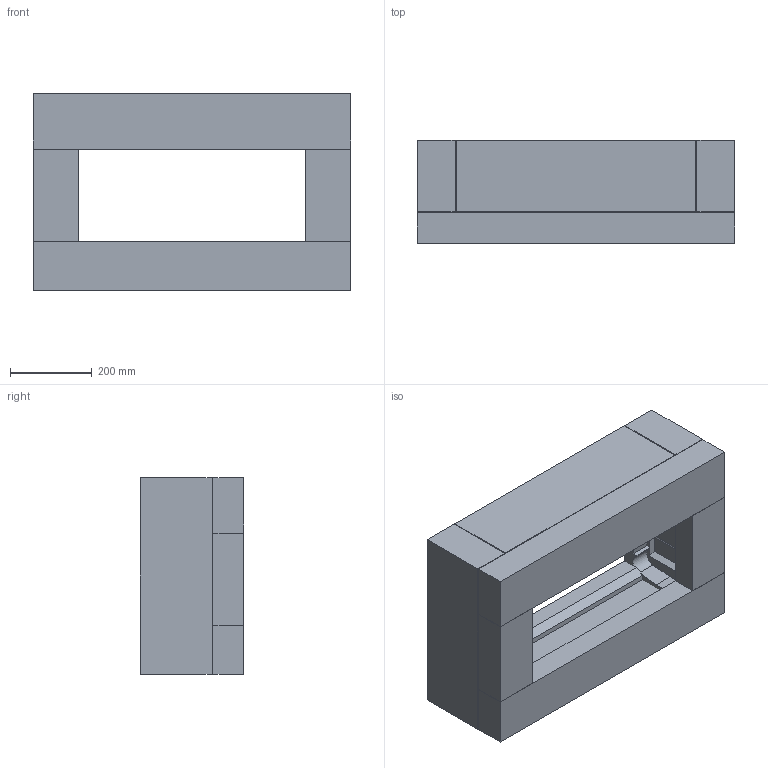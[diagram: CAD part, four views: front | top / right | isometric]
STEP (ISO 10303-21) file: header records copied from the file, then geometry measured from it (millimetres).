
FILE_DESCRIPTION(/* description */ ('D7-215 FOAM ASSEMBLY - COMPLETE'),/* implementation_level */ '2;1');
FILE_NAME(/* name */ 'C:\VaultWorkspace\Designs\58-Meteor-D7\Marketing\D7-215 Console (Marketing)\Transport GA\D72-30-01-7202-Foam-STEP.stp',/* time_stamp */ '2025-11-13T14:50:15+00:00',/* author */ ('nashib.rai'),/* organization */ ('AVOLITES LIMITED'),/* preprocessor_version */ 'ST-DEVELOPER v18.1',/* originating_system */ 'Autodesk Inventor 2022',/* authorisation */ 'JBT');
FILE_SCHEMA (('CONFIG_CONTROL_DESIGN'));
Length unit declared in the file: millimetre
Products named in the file (11): 09-01-7216; N/A; N/A_1; N/A_2; N/A_3; N/A_4; N/A_5; N/A_6; N/A_7; N/A_8; N/A_9
Assembly tree (10 placements, depth 3):
  09-01-7216
    N/A
      N/A_1
      N/A_2
      N/A_3
      N/A_4
    N/A_5
      N/A_6
      N/A_7
      N/A_8
      N/A_9
Bounding box: 776 x 252 x 480 mm (x, y, z)
Volume: 40417576.2 mm3; surface area: 2159923.7 mm2
Topology: 9 solids, 9 shells, 119 faces, 292 edges, 194 vertices
Faces by surface type: plane 111, cylinder 8
Entity records: 3880 total; most frequent: CARTESIAN_POINT 626, DIRECTION 588, ORIENTED_EDGE 584, EDGE_CURVE 292, LINE 276, VECTOR 276, VERTEX_POINT 194, AXIS2_PLACEMENT_3D 156
